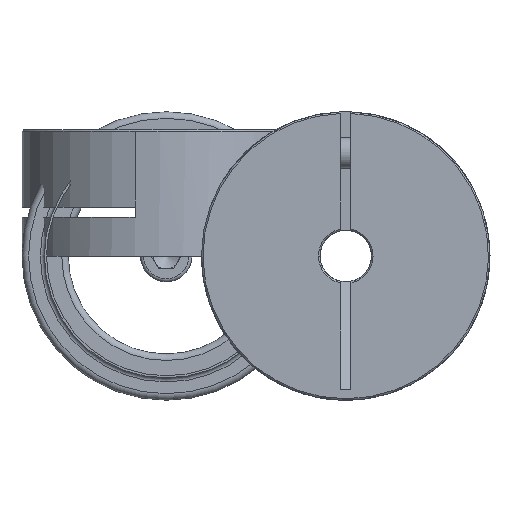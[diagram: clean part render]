
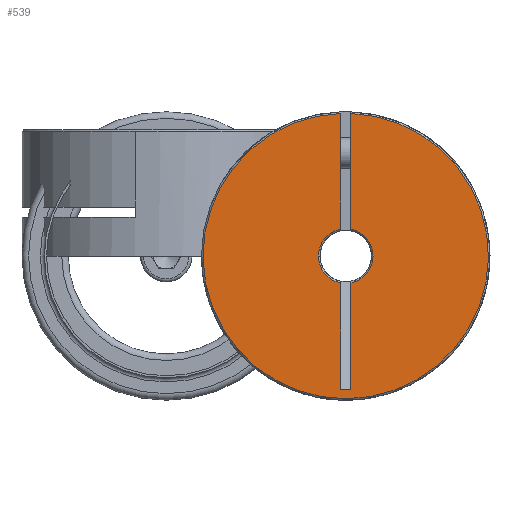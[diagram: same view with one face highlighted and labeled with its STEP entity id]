
A CAD part, left-side view. The second image highlights one B-rep face of the part: STEP entity #539.
In plain terms, the highlighted planar face has unit normal (-1, 0, 0) as drawn and (0, 0, 1) by its records, which use the part's own axes.
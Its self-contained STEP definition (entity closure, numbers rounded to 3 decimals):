
#539 = ADVANCED_FACE( 'NONE', ( #812 ), #813, .T. );
#812 = FACE_OUTER_BOUND( '', #991, .T. );
#813 = PLANE( '', #992 );
#991 = EDGE_LOOP( '', ( #1210, #1211, #1212, #1213, #1214, #1215, #1216, #1217 ) );
#992 = AXIS2_PLACEMENT_3D( '', #1218, #1219, #1220 );
#1210 = ORIENTED_EDGE( '', *, *, #1622, .F. );
#1211 = ORIENTED_EDGE( '', *, *, #1623, .T. );
#1212 = ORIENTED_EDGE( '', *, *, #1624, .T. );
#1213 = ORIENTED_EDGE( '', *, *, #1625, .T. );
#1214 = ORIENTED_EDGE( '', *, *, #1626, .T. );
#1215 = ORIENTED_EDGE( '', *, *, #1627, .F. );
#1216 = ORIENTED_EDGE( '', *, *, #1628, .F. );
#1217 = ORIENTED_EDGE( '', *, *, #1629, .T. );
#1218 = CARTESIAN_POINT( '', ( 0., 0., 24.5 ) );
#1219 = DIRECTION( '', ( 0., 0., 1. ) );
#1220 = DIRECTION( '', ( 1., 0., 0. ) );
#1622 = EDGE_CURVE( 'NONE', #1826, #1827, #1828, .F. );
#1623 = EDGE_CURVE( 'NONE', #1826, #1829, #1830, .T. );
#1624 = EDGE_CURVE( 'NONE', #1829, #1831, #1832, .T. );
#1625 = EDGE_CURVE( 'NONE', #1831, #1833, #1834, .F. );
#1626 = EDGE_CURVE( 'NONE', #1833, #1835, #1836, .T. );
#1627 = EDGE_CURVE( 'NONE', #1837, #1835, #1838, .F. );
#1628 = EDGE_CURVE( 'NONE', #1839, #1837, #1840, .F. );
#1629 = EDGE_CURVE( 'NONE', #1839, #1827, #1841, .F. );
#1826 = VERTEX_POINT( 'NONE', #1974 );
#1827 = VERTEX_POINT( 'NONE', #1975 );
#1828 = LINE( '', #1976, #1977 );
#1829 = VERTEX_POINT( 'NONE', #1978 );
#1830 = CIRCLE( '', #1979, 27.7 );
#1831 = VERTEX_POINT( 'NONE', #1980 );
#1832 = LINE( '', #1981, #1982 );
#1833 = VERTEX_POINT( 'NONE', #1983 );
#1834 = CIRCLE( '', #1984, 5.3 );
#1835 = VERTEX_POINT( 'NONE', #1985 );
#1836 = LINE( '', #1986, #1987 );
#1837 = VERTEX_POINT( 'NONE', #1988 );
#1838 = LINE( '', #1989, #1990 );
#1839 = VERTEX_POINT( 'NONE', #1991 );
#1840 = LINE( '', #1992, #1993 );
#1841 = CIRCLE( '', #1994, 5.3 );
#1974 = CARTESIAN_POINT( '', ( 27.682, 1., 24.5 ) );
#1975 = CARTESIAN_POINT( '', ( 5.205, 1., 24.5 ) );
#1976 = CARTESIAN_POINT( '', ( 17., 1., 24.5 ) );
#1977 = VECTOR( '', #2330, 1000. );
#1978 = CARTESIAN_POINT( '', ( 27.682, -1., 24.5 ) );
#1979 = AXIS2_PLACEMENT_3D( '', #2331, #2332, #2333 );
#1980 = CARTESIAN_POINT( '', ( 5.205, -1., 24.5 ) );
#1981 = CARTESIAN_POINT( '', ( 0., -1., 24.5 ) );
#1982 = VECTOR( '', #2334, 1000. );
#1983 = CARTESIAN_POINT( '', ( -5.205, -1., 24.5 ) );
#1984 = AXIS2_PLACEMENT_3D( '', #2335, #2336, #2337 );
#1985 = CARTESIAN_POINT( '', ( -25.849, -1., 24.5 ) );
#1986 = CARTESIAN_POINT( '', ( 0., -1., 24.5 ) );
#1987 = VECTOR( '', #2338, 1000. );
#1988 = CARTESIAN_POINT( '', ( -25.849, 1., 24.5 ) );
#1989 = CARTESIAN_POINT( '', ( -25.849, -1., 24.5 ) );
#1990 = VECTOR( '', #2339, 1000. );
#1991 = CARTESIAN_POINT( '', ( -5.205, 1., 24.5 ) );
#1992 = CARTESIAN_POINT( '', ( 17., 1., 24.5 ) );
#1993 = VECTOR( '', #2340, 1000. );
#1994 = AXIS2_PLACEMENT_3D( '', #2341, #2342, #2343 );
#2330 = DIRECTION( '', ( 1., 0., 0. ) );
#2331 = CARTESIAN_POINT( '', ( 0., 0., 24.5 ) );
#2332 = DIRECTION( '', ( 0., 0., 1. ) );
#2333 = DIRECTION( '', ( 1., 0., 0. ) );
#2334 = DIRECTION( '', ( -1., 0., 0. ) );
#2335 = CARTESIAN_POINT( '', ( 0., 0., 24.5 ) );
#2336 = DIRECTION( '', ( 0., 0., 1. ) );
#2337 = DIRECTION( '', ( 1., 0., 0. ) );
#2338 = DIRECTION( '', ( -1., 0., 0. ) );
#2339 = DIRECTION( '', ( 0., 1., 0. ) );
#2340 = DIRECTION( '', ( 1., 0., 0. ) );
#2341 = CARTESIAN_POINT( '', ( 0., 0., 24.5 ) );
#2342 = DIRECTION( '', ( 0., 0., 1. ) );
#2343 = DIRECTION( '', ( 1., 0., 0. ) );
